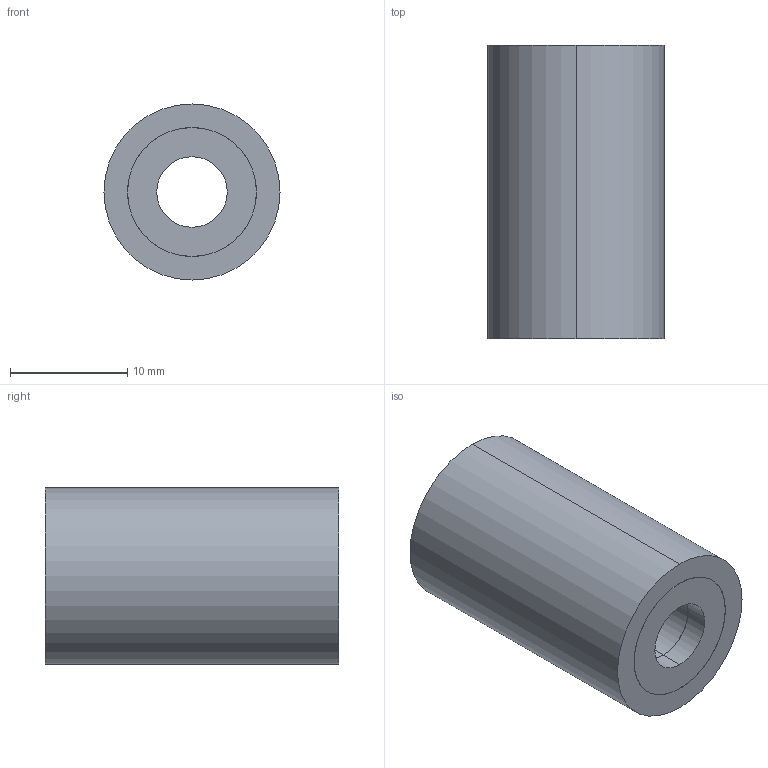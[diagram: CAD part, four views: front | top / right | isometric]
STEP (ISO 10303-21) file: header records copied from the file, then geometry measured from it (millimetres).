
FILE_DESCRIPTION (( 'STEP AP214' ), '1' );
FILE_NAME ('351-15-25-6-DD-40.step', '2025-07-23T10:13:58', ( '' ), ( '' ), 'SwSTEP 2.0', 'SolidWorks 2022', '' );
FILE_SCHEMA (( 'AUTOMOTIVE_DESIGN' ));
Length unit declared in the file: millimetre
Products named in the file (1): 351-15-25-6-DD-40
Bounding box: 15 x 25 x 15 mm (x, y, z)
Volume: 3711 mm3; surface area: 1948.4 mm2
Topology: 1 solids, 1 shells, 30 faces, 60 edges, 40 vertices
Faces by surface type: cylinder 20, plane 10
Entity records: 919 total; most frequent: DIRECTION 162, CARTESIAN_POINT 131, ORIENTED_EDGE 120, AXIS2_PLACEMENT_3D 71, EDGE_CURVE 60, CIRCLE 40, VERTEX_POINT 40, EDGE_LOOP 40
